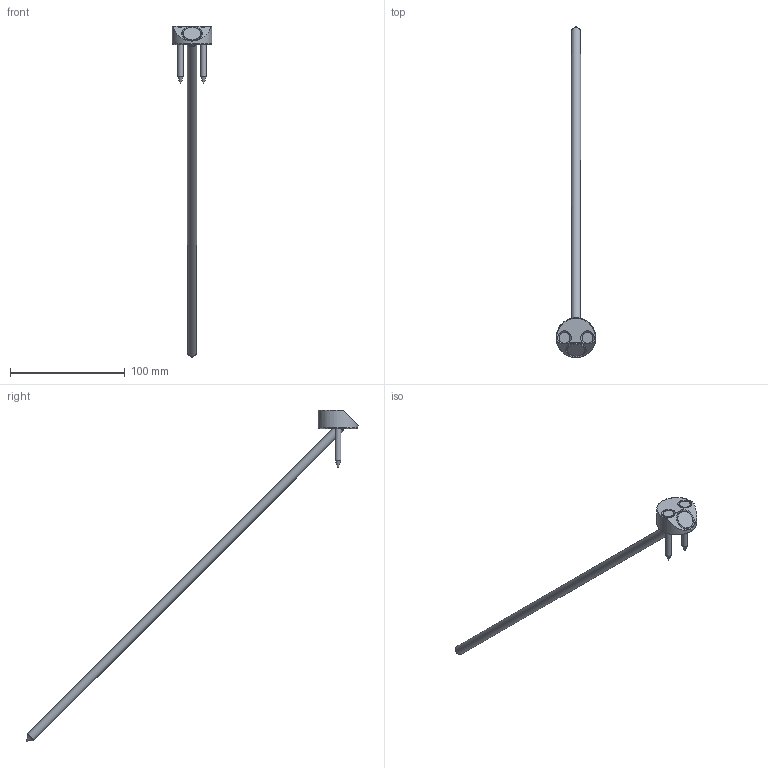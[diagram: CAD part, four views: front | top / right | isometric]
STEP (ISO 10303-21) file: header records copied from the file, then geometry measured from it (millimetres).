
FILE_DESCRIPTION(/* description */ ('Unknown'),/* implementation_level */ '2;1');
FILE_NAME(/* name */ 'T-JOINT_D35_W45_2xSK 5x50_1xSK 8x400',/* time_stamp */ '2022-02-03T11:31:59+01:00',/* author */ ('Unknown'),/* organization */ ('Unknown'),/* preprocessor_version */ 'ST-DEVELOPER v16.7',/* originating_system */ 'Solid Edge',/* authorisation */ 'Unknown');
FILE_SCHEMA (('AUTOMOTIVE_DESIGN {1 0 10303 214 3 1 1}'));
Length unit declared in the file: millimetre
Products named in the file (4): T-Joint_D35_W45_SK-8x400_2xSK-5x50; T-Joint_D35_W45; SK Knapp Schraube 8x400_ohne_Gewinde_22042020; SK Schraube 5x50_ohne_Gewinde
Assembly tree (4 placements, depth 2):
  T-Joint_D35_W45_SK-8x400_2xSK-5x50
    T-Joint_D35_W45
    SK Knapp Schraube 8x400_ohne_Gewinde_22042020
    SK Schraube 5x50_ohne_Gewinde  x2
Bounding box: 34.78 x 289.49 x 289.19 mm (x, y, z)
Volume: 32648.8 mm3; surface area: 16060.5 mm2
Topology: 4 solids, 4 shells, 33 faces, 72 edges, 44 vertices
Faces by surface type: cylinder 11, cone 10, plane 9, torus 3
Full cylindrical faces by diameter (mm): 5 x2, 6 x1, 6.2 x2, 8 x2, 9.5 x2, 12.5 x1, 34.8 x1
Entity records: 735 total; most frequent: DIRECTION 122, CARTESIAN_POINT 121, ORIENTED_EDGE 72, AXIS2_PLACEMENT_3D 59, FACE_BOUND 50, EDGE_LOOP 49, EDGE_CURVE 36, VERTEX_POINT 32
